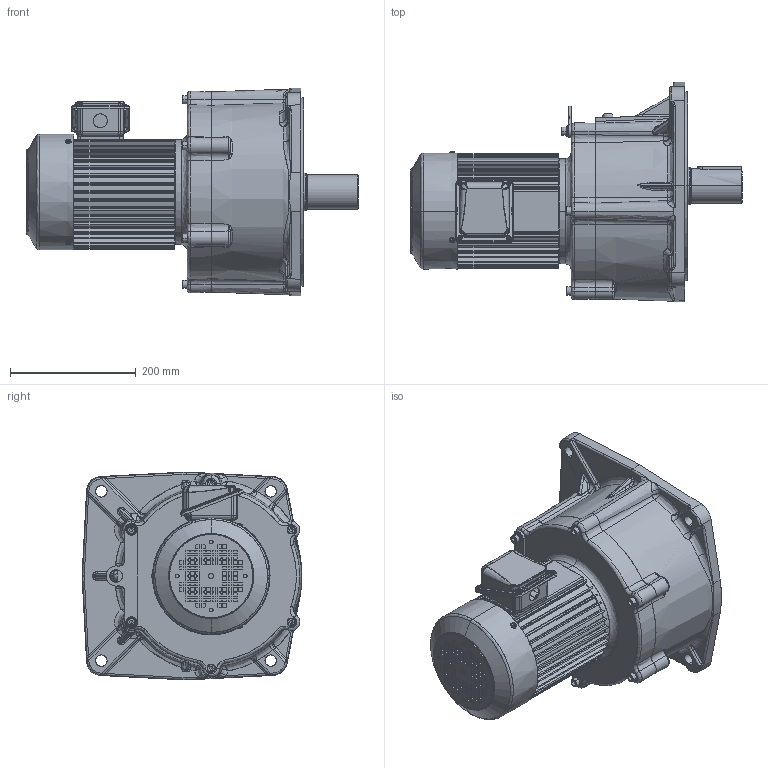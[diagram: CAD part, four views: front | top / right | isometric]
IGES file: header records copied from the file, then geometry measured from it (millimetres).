
Start section: SolidWorks IGES file using analytic representation for surfaces
Global section: file name: \\100.100.100.8\1_共有作業フォルダ\1-5_３Ｄデータ\solidworks\personal-folder\H.Nagayama\SGP1外形_075~370\P1(3D)_075~370\igs\TMF2-15H-(100~160).IGS; native system: SolidWorks 2018; preprocessor: SolidWorks 2018; author: user; date: 210309.145217; units: millimetre
Bounding box: 527 x 349 x 330 mm (x, y, z)
Surface area: 1027991.2 mm2 (no closed solid volume)
Topology: 0 solids, 0 shells, 2605 faces, 29390 edges, 29301 vertices
Faces by surface type: bspline 1375, revolution 1230
